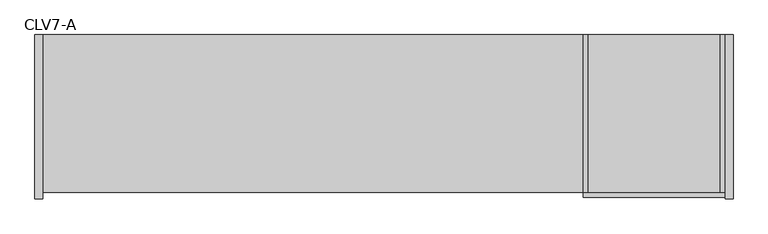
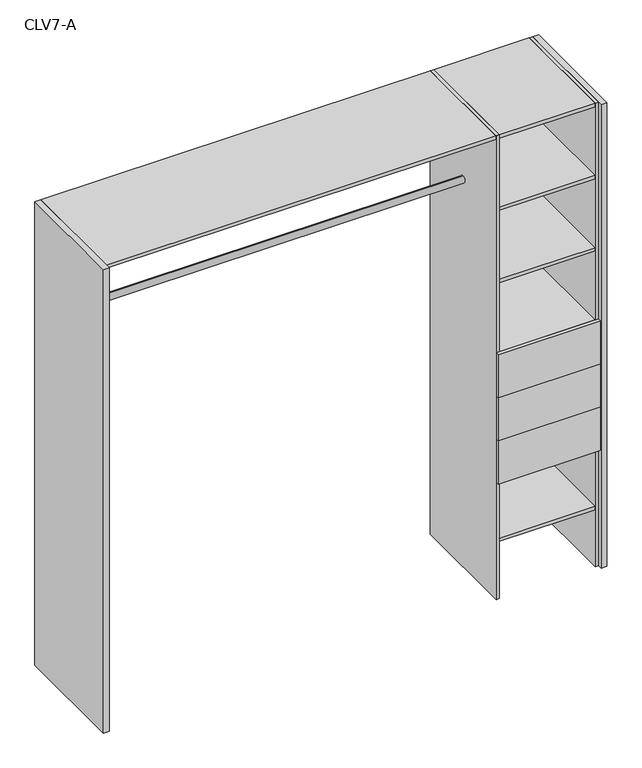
"""IFC4 building model written with IfcOpenShell, lengths in millimetres: furniture geometry, Closet 1estantes-1tubos_2 laterales : CLV7-A."""

from ifc_helpers import new_model, si_unit, point, frame, frame_2d, origin, origin_with_axes, place, context, project, spatial, polyline, circle_curve, trimmed, segment, composite_curve, outline, extrude, source, transform, mapped, element, save


def clv7_a_b6d06a28(model_context):
    return source(origin(), model_context, "Body", "SweptSolid", [
        extrude(outline(polyline([(-1934.9291709, 80.0), (-1959.9291709, 80.0), (-1959.9291709, 600.0), (-1934.9291709, 600.0), (-1934.9291709, 80.0)])), origin_with_axes(), (0.0, 0.0, 1.0), 2150.0),
        extrude(outline(polyline([(250.0, 80.0), (225.0, 80.0), (225.0, 600.0), (250.0, 600.0), (250.0, 80.0)])), origin_with_axes(), (0.0, 0.0, 1.0), 2150.0),
        extrude(outline(polyline([(225.0, 100.0), (210.0, 100.0), (210.0, 600.0), (225.0, 600.0), (225.0, 100.0)])), origin_with_axes(), (0.0, 0.0, 1.0), 2150.0),
        extrude(outline(polyline([(-210.0, 100.0), (-225.0, 100.0), (-225.0, 600.0), (-210.0, 600.0), (-210.0, 100.0)])), origin_with_axes(), (0.0, 0.0, 1.0), 2150.0),
        extrude(outline(polyline([(225.0, 100.0), (225.0, 85.0), (-225.0, 85.0), (-225.0, 100.0), (225.0, 100.0)])), frame((0.0, 0.0, 945.0), z_axis=(0.0, 0.0, 1.0), x_axis=(1.0, 0.0, 0.0)), (0.0, 0.0, 1.0), 200.0),
        extrude(outline(polyline([(225.0, 100.0), (225.0, 85.0), (-225.0, 85.0), (-225.0, 100.0), (225.0, 100.0)])), frame((0.0, 0.0, 745.0), z_axis=(0.0, 0.0, 1.0), x_axis=(1.0, 0.0, 0.0)), (0.0, 0.0, 1.0), 200.0),
        extrude(outline(polyline([(225.0, 100.0), (225.0, 85.0), (-225.0, 85.0), (-225.0, 100.0), (225.0, 100.0)])), frame((0.0, 0.0, 545.0), z_axis=(0.0, 0.0, 1.0), x_axis=(1.0, 0.0, 0.0)), (0.0, 0.0, 1.0), 200.0),
        extrude(outline(polyline([(210.0, 100.0), (-210.0, 100.0), (-210.0, 600.0), (210.0, 600.0), (210.0, 100.0)])), frame((0.0, 0.0, 1130.0), z_axis=(0.0, 0.0, 1.0), x_axis=(1.0, 0.0, 0.0)), (0.0, 0.0, 1.0), 15.0),
        extrude(outline(composite_curve([segment(trimmed(circle_curve(frame_2d((350.0, 1800.0)), 15.0), [point((350.0, 1815.0))], [point((350.0, 1785.0))], False, "CARTESIAN"), True, "CONTINUOUS"), segment(trimmed(circle_curve(frame_2d((350.0, 1800.0)), 15.0), [point((350.0, 1785.0))], [point((350.0, 1815.0))], False, "CARTESIAN"), True, "CONTINUOUS")], self_intersect=False)), frame((-1934.9291709, 0.0, 0.0), z_axis=(1.0, 0.0, 0.0), x_axis=(0.0, 1.0, 0.0)), (0.0, 0.0, 1.0), 1709.9291709),
        extrude(outline(composite_curve([segment(trimmed(circle_curve(frame_2d((350.0, 1800.0)), 15.0), [point((350.0, 1815.0))], [point((350.0, 1785.0))], False, "CARTESIAN"), True, "CONTINUOUS"), segment(trimmed(circle_curve(frame_2d((350.0, 1800.0)), 15.0), [point((350.0, 1785.0))], [point((350.0, 1815.0))], False, "CARTESIAN"), True, "CONTINUOUS")], self_intersect=False)), frame((-1934.9291709, 0.0, 0.0), z_axis=(1.0, 0.0, 0.0), x_axis=(0.0, 1.0, 0.0)), (0.0, 0.0, 1.0), 1709.9291709),
        extrude(outline(polyline([(210.0, 100.0), (-210.0, 100.0), (-210.0, 600.0), (210.0, 600.0), (210.0, 100.0)])), frame((0.0, 0.0, 265.0), z_axis=(0.0, 0.0, 1.0), x_axis=(1.0, 0.0, 0.0)), (0.0, 0.0, 1.0), 15.0),
        extrude(outline(polyline([(210.0, 100.0), (-210.0, 100.0), (-210.0, 600.0), (210.0, 600.0), (210.0, 100.0)])), frame((0.0, 0.0, 545.0), z_axis=(0.0, 0.0, 1.0), x_axis=(1.0, 0.0, 0.0)), (0.0, 0.0, 1.0), 15.0),
        extrude(outline(polyline([(210.0, 100.0), (-210.0, 100.0), (-210.0, 600.0), (210.0, 600.0), (210.0, 100.0)])), frame((0.0, 0.0, 1465.0), z_axis=(0.0, 0.0, 1.0), x_axis=(1.0, 0.0, 0.0)), (0.0, 0.0, 1.0), 15.0),
        extrude(outline(polyline([(210.0, 100.0), (-210.0, 100.0), (-210.0, 600.0), (210.0, 600.0), (210.0, 100.0)])), frame((0.0, 0.0, 1800.0), z_axis=(0.0, 0.0, 1.0), x_axis=(1.0, 0.0, 0.0)), (0.0, 0.0, 1.0), 15.0),
        extrude(outline(polyline([(-210.0, 100.0), (-1934.9291709, 100.0), (-1934.9291709, 600.0), (-210.0, 600.0), (-210.0, 100.0)])), frame((0.0, 0.0, 2135.0), z_axis=(0.0, 0.0, 1.0), x_axis=(1.0, 0.0, 0.0)), (0.0, 0.0, 1.0), 15.0),
        extrude(outline(polyline([(210.0, 100.0), (-210.0, 100.0), (-210.0, 600.0), (210.0, 600.0), (210.0, 100.0)])), frame((0.0, 0.0, 2135.0), z_axis=(0.0, 0.0, 1.0), x_axis=(1.0, 0.0, 0.0)), (0.0, 0.0, 1.0), 15.0),
    ])


if __name__ == "__main__":
    model = new_model("IFC4")
    model_context = context("Model", 3, world=origin())
    ifc_project = project(units=[si_unit("LENGTHUNIT", "METRE", prefix="MILLI")], contexts=[model_context])
    site = spatial("IfcSite", under=ifc_project)
    building = spatial("IfcBuilding", under=site)
    placement = place(None, origin())
    clv7_a_shape = clv7_a_b6d06a28(model_context)
    element("IfcFurniture", 1, ObjectType="Closet 1estantes-1tubos_2 laterales : CLV7-A", at=placement, inside=building, context=model_context, shape_type="MappedRepresentation", body=[
        mapped(clv7_a_shape, transform((0.0, 0.0, 0.0), x_axis=(1.0, 0.0, 0.0), y_axis=(0.0, 1.0, 0.0), z_axis=(0.0, 0.0, 1.0))),
    ])
    save(model, "model.ifc")
